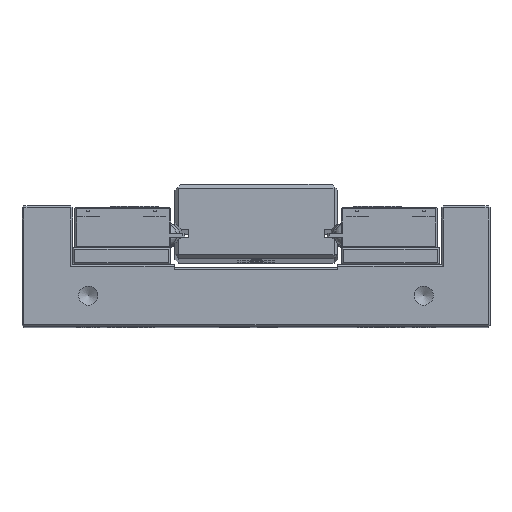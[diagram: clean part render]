
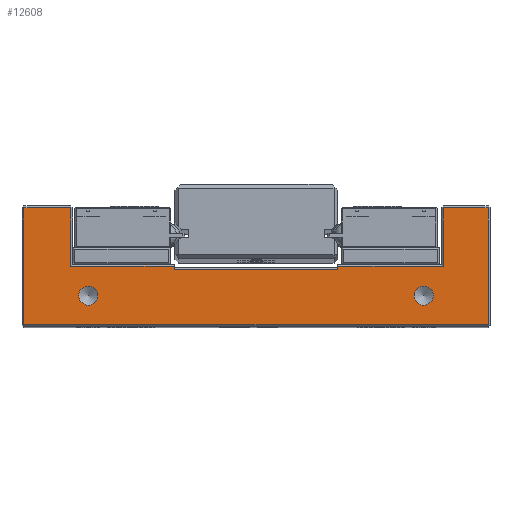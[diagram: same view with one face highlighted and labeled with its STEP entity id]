
A CAD part, top view. The second image highlights one B-rep face of the part: STEP entity #12608.
In plain terms, the highlighted planar face has unit normal (0, 0, 1).
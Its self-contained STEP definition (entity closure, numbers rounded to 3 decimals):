
#415=FACE_BOUND('',#2301,.T.);
#416=FACE_BOUND('',#2302,.T.);
#928=PLANE('',#13690);
#1544=FACE_OUTER_BOUND('',#2300,.T.);
#2300=EDGE_LOOP('',(#10597,#10598,#10599,#10600,#10601,#10602,#10603,#10604,
#10605,#10606,#10607,#10608));
#2301=EDGE_LOOP('',(#10609));
#2302=EDGE_LOOP('',(#10610));
#3298=LINE('',#20790,#4332);
#3370=LINE('',#21004,#4404);
#3399=LINE('',#21058,#4433);
#3401=LINE('',#21061,#4435);
#3403=LINE('',#21065,#4437);
#3404=LINE('',#21067,#4438);
#3406=LINE('',#21071,#4440);
#3407=LINE('',#21073,#4441);
#3410=LINE('',#21078,#4444);
#3412=LINE('',#21082,#4446);
#3414=LINE('',#21086,#4448);
#3415=LINE('',#21088,#4449);
#4332=VECTOR('',#16230,10.);
#4404=VECTOR('',#16454,10.);
#4433=VECTOR('',#16517,10.);
#4435=VECTOR('',#16521,10.);
#4437=VECTOR('',#16527,10.);
#4438=VECTOR('',#16530,10.);
#4440=VECTOR('',#16536,10.);
#4441=VECTOR('',#16539,10.);
#4444=VECTOR('',#16544,10.);
#4446=VECTOR('',#16548,10.);
#4448=VECTOR('',#16554,10.);
#4449=VECTOR('',#16557,10.);
#4902=CIRCLE('',#13691,2.459);
#4903=CIRCLE('',#13692,2.459);
#5847=VERTEX_POINT('',#20783);
#5850=VERTEX_POINT('',#20788);
#5908=VERTEX_POINT('',#20969);
#5913=VERTEX_POINT('',#20987);
#5915=VERTEX_POINT('',#21001);
#5916=VERTEX_POINT('',#21003);
#5917=VERTEX_POINT('',#21007);
#5919=VERTEX_POINT('',#21019);
#5920=VERTEX_POINT('',#21024);
#5922=VERTEX_POINT('',#21042);
#5925=VERTEX_POINT('',#21077);
#5926=VERTEX_POINT('',#21081);
#5927=VERTEX_POINT('',#21089);
#5928=VERTEX_POINT('',#21091);
#7406=EDGE_CURVE('',#5850,#5847,#3298,.T.);
#7512=EDGE_CURVE('',#5915,#5916,#3370,.T.);
#7541=EDGE_CURVE('',#5919,#5922,#3399,.T.);
#7543=EDGE_CURVE('',#5922,#5920,#3401,.T.);
#7545=EDGE_CURVE('',#5920,#5917,#3403,.T.);
#7546=EDGE_CURVE('',#5916,#5919,#3404,.T.);
#7548=EDGE_CURVE('',#5917,#5913,#3406,.T.);
#7549=EDGE_CURVE('',#5913,#5908,#3407,.T.);
#7552=EDGE_CURVE('',#5908,#5925,#3410,.T.);
#7554=EDGE_CURVE('',#5925,#5926,#3412,.T.);
#7556=EDGE_CURVE('',#5850,#5926,#3414,.T.);
#7557=EDGE_CURVE('',#5915,#5847,#3415,.T.);
#7558=EDGE_CURVE('',#5927,#5927,#4902,.T.);
#7559=EDGE_CURVE('',#5928,#5928,#4903,.T.);
#10597=ORIENTED_EDGE('',*,*,#7556,.T.);
#10598=ORIENTED_EDGE('',*,*,#7554,.F.);
#10599=ORIENTED_EDGE('',*,*,#7552,.F.);
#10600=ORIENTED_EDGE('',*,*,#7549,.F.);
#10601=ORIENTED_EDGE('',*,*,#7548,.F.);
#10602=ORIENTED_EDGE('',*,*,#7545,.F.);
#10603=ORIENTED_EDGE('',*,*,#7543,.F.);
#10604=ORIENTED_EDGE('',*,*,#7541,.F.);
#10605=ORIENTED_EDGE('',*,*,#7546,.F.);
#10606=ORIENTED_EDGE('',*,*,#7512,.F.);
#10607=ORIENTED_EDGE('',*,*,#7557,.T.);
#10608=ORIENTED_EDGE('',*,*,#7406,.F.);
#10609=ORIENTED_EDGE('',*,*,#7558,.T.);
#10610=ORIENTED_EDGE('',*,*,#7559,.T.);
#12608=ADVANCED_FACE('',(#1544,#415,#416),#928,.T.);
#13690=AXIS2_PLACEMENT_3D('',#21087,#16555,#16556);
#13691=AXIS2_PLACEMENT_3D('',#21090,#16558,#16559);
#13692=AXIS2_PLACEMENT_3D('',#21092,#16560,#16561);
#16230=DIRECTION('',(1.,0.,0.));
#16454=DIRECTION('',(1.,0.,0.));
#16517=DIRECTION('',(1.,0.,0.));
#16521=DIRECTION('',(0.,-1.,0.));
#16527=DIRECTION('',(-1.,0.,0.));
#16530=DIRECTION('',(0.,1.,0.));
#16536=DIRECTION('',(0.,1.,0.));
#16539=DIRECTION('',(1.,0.,0.));
#16544=DIRECTION('',(0.,-1.,0.));
#16548=DIRECTION('',(1.,0.,0.));
#16554=DIRECTION('',(0.,1.,0.));
#16555=DIRECTION('center_axis',(0.,0.,1.));
#16556=DIRECTION('ref_axis',(1.,0.,0.));
#16557=DIRECTION('',(0.,-1.,0.));
#16558=DIRECTION('center_axis',(0.,0.,-1.));
#16559=DIRECTION('ref_axis',(-1.,0.,0.));
#16560=DIRECTION('center_axis',(0.,0.,-1.));
#16561=DIRECTION('ref_axis',(-1.,0.,0.));
#20783=CARTESIAN_POINT('',(23.66,11.195,52.5));
#20788=CARTESIAN_POINT('',(-18.34,11.195,52.5));
#20790=CARTESIAN_POINT('',(13.16,11.195,52.5));
#20969=CARTESIAN_POINT('',(-44.84,26.995,52.5));
#20987=CARTESIAN_POINT('',(-56.84,26.995,52.5));
#21001=CARTESIAN_POINT('',(23.66,11.995,52.5));
#21003=CARTESIAN_POINT('',(50.66,11.995,52.5));
#21004=CARTESIAN_POINT('',(26.41,11.995,52.5));
#21007=CARTESIAN_POINT('',(-56.84,-3.005,52.5));
#21019=CARTESIAN_POINT('',(50.66,26.995,52.5));
#21024=CARTESIAN_POINT('',(62.16,-3.005,52.5));
#21042=CARTESIAN_POINT('',(62.16,26.995,52.5));
#21058=CARTESIAN_POINT('',(32.66,26.995,52.5));
#21061=CARTESIAN_POINT('',(62.16,4.245,52.5));
#21065=CARTESIAN_POINT('',(-27.34,-3.005,52.5));
#21067=CARTESIAN_POINT('',(50.66,19.745,52.5));
#21071=CARTESIAN_POINT('',(-56.84,19.745,52.5));
#21073=CARTESIAN_POINT('',(-20.84,26.995,52.5));
#21077=CARTESIAN_POINT('',(-44.84,11.995,52.5));
#21078=CARTESIAN_POINT('',(-44.84,12.245,52.5));
#21081=CARTESIAN_POINT('',(-18.34,11.995,52.5));
#21082=CARTESIAN_POINT('',(-7.84,11.995,52.5));
#21086=CARTESIAN_POINT('',(-18.34,11.695,52.5));
#21087=CARTESIAN_POINT('Origin',(2.66,11.995,52.5));
#21088=CARTESIAN_POINT('',(23.66,12.495,52.5));
#21089=CARTESIAN_POINT('',(-37.881,4.495,52.5));
#21090=CARTESIAN_POINT('Origin',(-40.34,4.495,52.5));
#21091=CARTESIAN_POINT('',(48.119,4.495,52.5));
#21092=CARTESIAN_POINT('Origin',(45.66,4.495,52.5));
